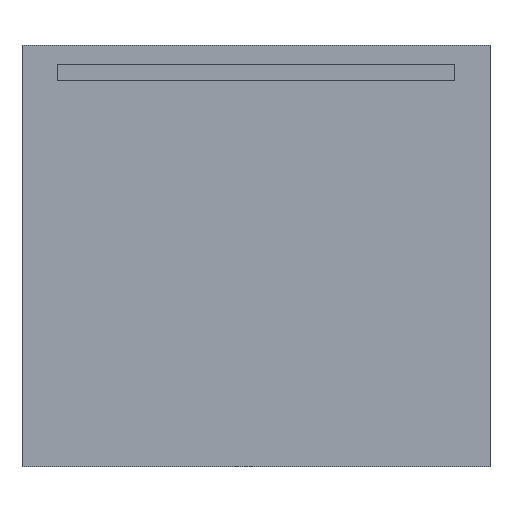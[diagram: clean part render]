
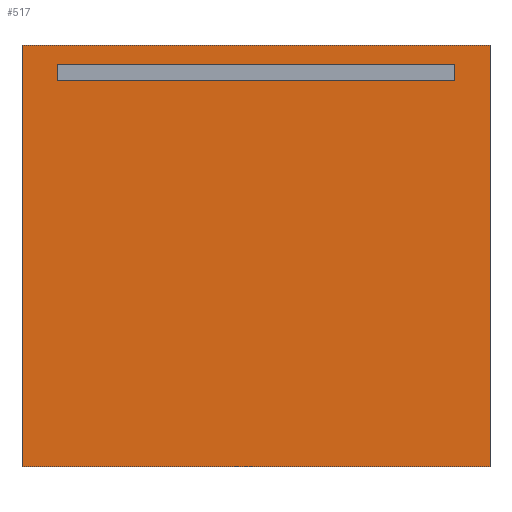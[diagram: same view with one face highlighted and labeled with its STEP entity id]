
A CAD part, front view. The second image highlights one B-rep face of the part: STEP entity #517.
In plain terms, the highlighted planar face has unit normal (0, -1, 0).
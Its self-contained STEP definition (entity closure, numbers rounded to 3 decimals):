
#47=FACE_BOUND('',#92,.T.);
#62=FACE_OUTER_BOUND('',#91,.T.);
#91=EDGE_LOOP('',(#359,#360,#361,#362));
#92=EDGE_LOOP('',(#363,#364,#365,#366));
#115=LINE('',#766,#159);
#119=LINE('',#774,#163);
#122=LINE('',#780,#166);
#125=LINE('',#785,#169);
#127=LINE('',#791,#171);
#131=LINE('',#799,#175);
#134=LINE('',#805,#178);
#137=LINE('',#810,#181);
#159=VECTOR('',#614,10.);
#163=VECTOR('',#620,10.);
#166=VECTOR('',#625,10.);
#169=VECTOR('',#630,10.);
#171=VECTOR('',#636,10.);
#175=VECTOR('',#642,10.);
#178=VECTOR('',#647,10.);
#181=VECTOR('',#652,10.);
#203=VERTEX_POINT('',#764);
#204=VERTEX_POINT('',#765);
#207=VERTEX_POINT('',#773);
#209=VERTEX_POINT('',#779);
#211=VERTEX_POINT('',#789);
#212=VERTEX_POINT('',#790);
#215=VERTEX_POINT('',#798);
#217=VERTEX_POINT('',#804);
#251=EDGE_CURVE('',#203,#204,#115,.T.);
#255=EDGE_CURVE('',#207,#203,#119,.T.);
#258=EDGE_CURVE('',#209,#207,#122,.T.);
#261=EDGE_CURVE('',#204,#209,#125,.T.);
#263=EDGE_CURVE('',#211,#212,#127,.T.);
#267=EDGE_CURVE('',#215,#211,#131,.T.);
#270=EDGE_CURVE('',#217,#215,#134,.T.);
#273=EDGE_CURVE('',#212,#217,#137,.T.);
#359=ORIENTED_EDGE('',*,*,#273,.F.);
#360=ORIENTED_EDGE('',*,*,#263,.F.);
#361=ORIENTED_EDGE('',*,*,#267,.F.);
#362=ORIENTED_EDGE('',*,*,#270,.F.);
#363=ORIENTED_EDGE('',*,*,#251,.T.);
#364=ORIENTED_EDGE('',*,*,#261,.T.);
#365=ORIENTED_EDGE('',*,*,#258,.T.);
#366=ORIENTED_EDGE('',*,*,#255,.T.);
#465=PLANE('',#567);
#517=ADVANCED_FACE('',(#62,#47),#465,.F.);
#567=AXIS2_PLACEMENT_3D('',#813,#656,#657);
#614=DIRECTION('',(0.,0.,-1.));
#620=DIRECTION('',(1.,0.,0.));
#625=DIRECTION('',(0.,0.,1.));
#630=DIRECTION('',(-1.,0.,0.));
#636=DIRECTION('',(0.,0.,1.));
#642=DIRECTION('',(-1.,0.,0.));
#647=DIRECTION('',(0.,0.,-1.));
#652=DIRECTION('',(1.,0.,0.));
#656=DIRECTION('center_axis',(0.,1.,0.));
#657=DIRECTION('ref_axis',(0.,0.,1.));
#764=CARTESIAN_POINT('',(425.,-26.,860.));
#765=CARTESIAN_POINT('',(425.,-26.,825.));
#766=CARTESIAN_POINT('',(425.,-26.,655.));
#773=CARTESIAN_POINT('',(-425.,-26.,860.));
#774=CARTESIAN_POINT('',(-212.5,-26.,860.));
#779=CARTESIAN_POINT('',(-425.,-26.,825.));
#780=CARTESIAN_POINT('',(-425.,-26.,637.5));
#785=CARTESIAN_POINT('',(212.5,-26.,825.));
#789=CARTESIAN_POINT('',(-500.,-26.,0.));
#790=CARTESIAN_POINT('',(-500.,-26.,900.));
#791=CARTESIAN_POINT('',(-500.,-26.,0.));
#798=CARTESIAN_POINT('',(500.,-26.,0.));
#799=CARTESIAN_POINT('',(500.,-26.,0.));
#804=CARTESIAN_POINT('',(500.,-26.,900.));
#805=CARTESIAN_POINT('',(500.,-26.,900.));
#810=CARTESIAN_POINT('',(-500.,-26.,900.));
#813=CARTESIAN_POINT('Origin',(0.,-26.,450.));
